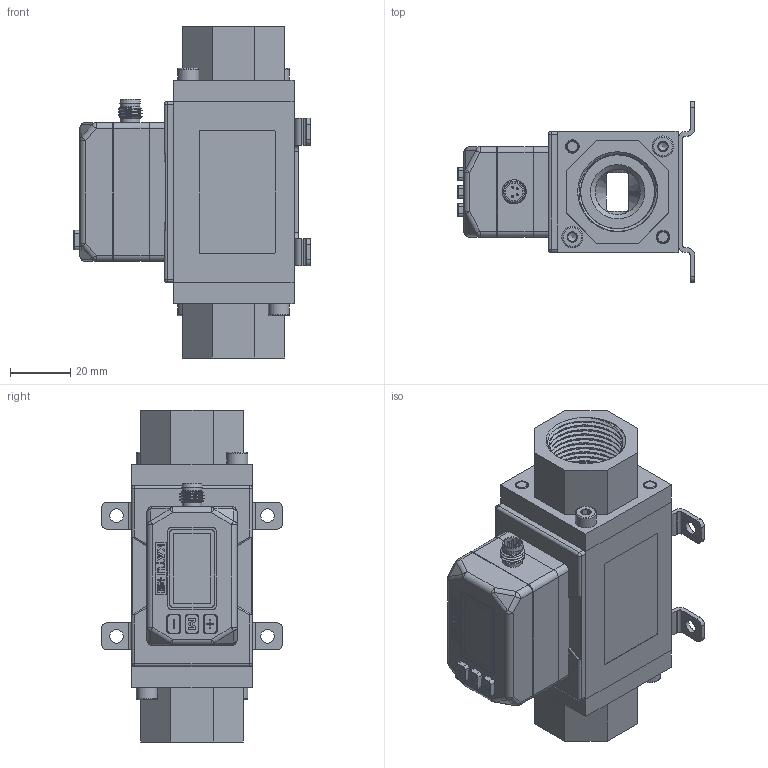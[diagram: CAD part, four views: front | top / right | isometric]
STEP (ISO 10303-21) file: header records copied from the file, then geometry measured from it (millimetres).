
FILE_DESCRIPTION( (''), '2;1');
FILE_NAME( 'QEKJ_40L_R3-4_M12_LED-display_bracket.step', '2023-06-26T19:29:45+08:00', (''), (''), '', '', '');
FILE_SCHEMA (('AUTOMOTIVE_DESIGN { 1 0 10303 214 3 1 1 1 }'));
Length unit declared in the file: millimetre
Products named in the file (1): QEKJ 40L_R3-4_M12_LED-display_bracket
Bounding box: 78.6 x 60 x 110 mm (x, y, z)
Volume: 113304.1 mm3; surface area: 71867.8 mm2
Topology: 11 solids, 12 shells, 1050 faces, 2754 edges, 1770 vertices
Faces by surface type: plane 676, cylinder 219, cone 72, extrusion 30, torus 25, sphere 20, bspline 8
Full cylindrical faces by diameter (mm): 0.6 x4, 2.05 x4, 3 x4, 3.3 x4, 3.838 x4, 4.5 x24, 5 x4, 5.8 x1, 6.5 x2, 7 x4, 8 x5, 9.5 x1, 15 x2, 23 x4
Entity records: 41229 total; most frequent: CARTESIAN_POINT 15546, ORIENTED_EDGE 5120, DIRECTION 4784, EDGE_CURVE 2560, VERTEX_POINT 1719, VECTOR 1664, LINE 1634, AXIS2_PLACEMENT_3D 1560
